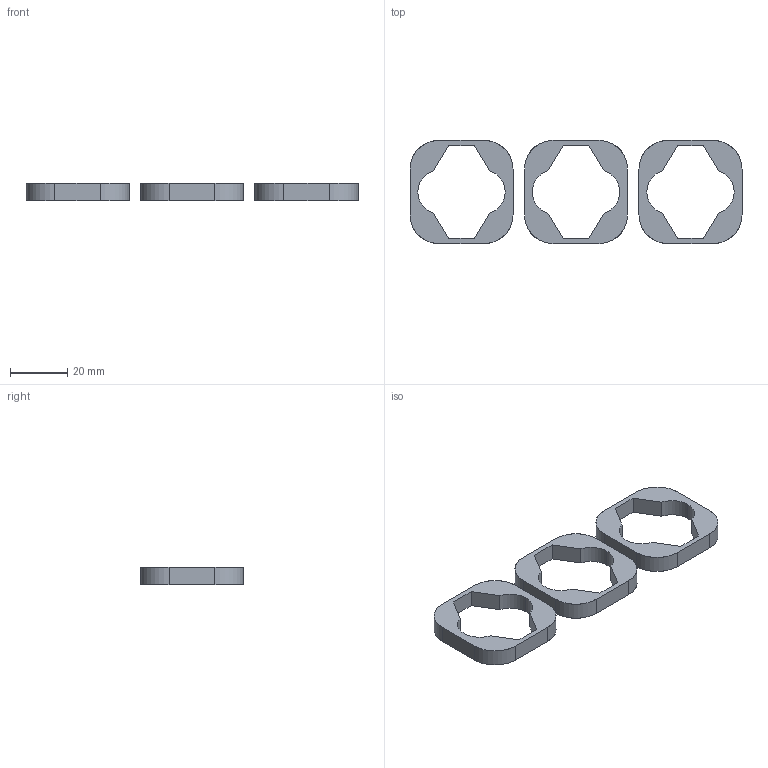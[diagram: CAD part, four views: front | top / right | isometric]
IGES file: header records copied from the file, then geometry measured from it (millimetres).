
Start section: SolidWorks IGES FILE using analytic representation for surfaces
Global section: file name: C:\Documents and Settings\MYKEUL\Bureau\FABRICATION MAQUETTES FINAL\MAQUETTE N°4 PILES\SOCLE 4\IGS\3 Pieds.IGS; native system: SolidWorks 2001 by SolidWorks Corporation; preprocessor: Version 5.2; author: MYKEUL; date: 081101.185020; units: millimetre
Bounding box: 116 x 36 x 6 mm (x, y, z)
Surface area: 7358.9 mm2 (no closed solid volume)
Topology: 0 solids, 0 shells, 60 faces, 660 edges, 660 vertices
Faces by surface type: bspline 36, revolution 24
